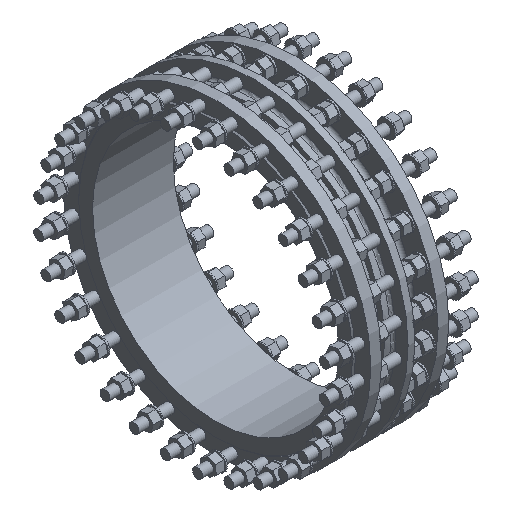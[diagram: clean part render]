
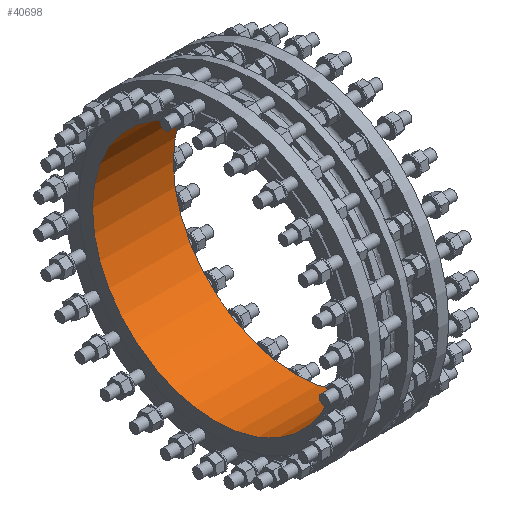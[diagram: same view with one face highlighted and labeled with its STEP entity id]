
A CAD part, isometric view. The second image highlights one B-rep face of the part: STEP entity #40698.
In plain terms, the highlighted cylindrical face has radius 450 mm (diameter 900 mm), a full revolution.
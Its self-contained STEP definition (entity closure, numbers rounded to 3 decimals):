
#2148 = VERTEX_POINT ( 'NONE', #25960 ) ;
#6342 = CIRCLE ( 'NONE', #15286, 450. ) ;
#8374 = DIRECTION ( 'NONE',  ( 0., 0., 1. ) ) ;
#10322 = DIRECTION ( 'NONE',  ( 1., 0., 0. ) ) ;
#12524 = EDGE_CURVE ( 'NONE', #2148, #2148, #16078, .T. ) ;
#12617 = EDGE_LOOP ( 'NONE', ( #16079 ) ) ;
#13132 = EDGE_CURVE ( 'NONE', #45041, #45041, #6342, .T. ) ;
#15286 = AXIS2_PLACEMENT_3D ( 'NONE', #23271, #29826, #8374 ) ;
#16078 = CIRCLE ( 'NONE', #33966, 450. ) ;
#16079 = ORIENTED_EDGE ( 'NONE', *, *, #13132, .F. ) ;
#16168 = AXIS2_PLACEMENT_3D ( 'NONE', #16695, #31166, #16470 ) ;
#16470 = DIRECTION ( 'NONE',  ( 0., 0., 1. ) ) ;
#16695 = CARTESIAN_POINT ( 'NONE',  ( 0., 0., 0. ) ) ;
#17206 = EDGE_LOOP ( 'NONE', ( #26692 ) ) ;
#19745 = FACE_OUTER_BOUND ( 'NONE', #12617, .T. ) ;
#19967 = FACE_OUTER_BOUND ( 'NONE', #17206, .T. ) ;
#23271 = CARTESIAN_POINT ( 'NONE',  ( 270., 0., 0. ) ) ;
#23853 = CARTESIAN_POINT ( 'NONE',  ( -25., 0., 0. ) ) ;
#25960 = CARTESIAN_POINT ( 'NONE',  ( -25., 0., -450. ) ) ;
#26692 = ORIENTED_EDGE ( 'NONE', *, *, #12524, .F. ) ;
#29826 = DIRECTION ( 'NONE',  ( -1., 0., 0. ) ) ;
#31166 = DIRECTION ( 'NONE',  ( -1., 0., 0. ) ) ;
#31313 = DIRECTION ( 'NONE',  ( 0., 0., -1. ) ) ;
#33966 = AXIS2_PLACEMENT_3D ( 'NONE', #23853, #10322, #31313 ) ;
#34206 = CYLINDRICAL_SURFACE ( 'NONE', #16168, 450. ) ;
#35256 = CARTESIAN_POINT ( 'NONE',  ( 270., 0., 450. ) ) ;
#40698 = ADVANCED_FACE ( 'NONE', ( #19745, #19967 ), #34206, .F. ) ;
#45041 = VERTEX_POINT ( 'NONE', #35256 ) ;
